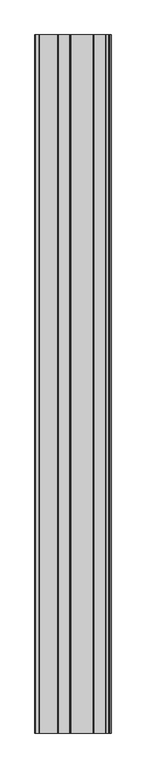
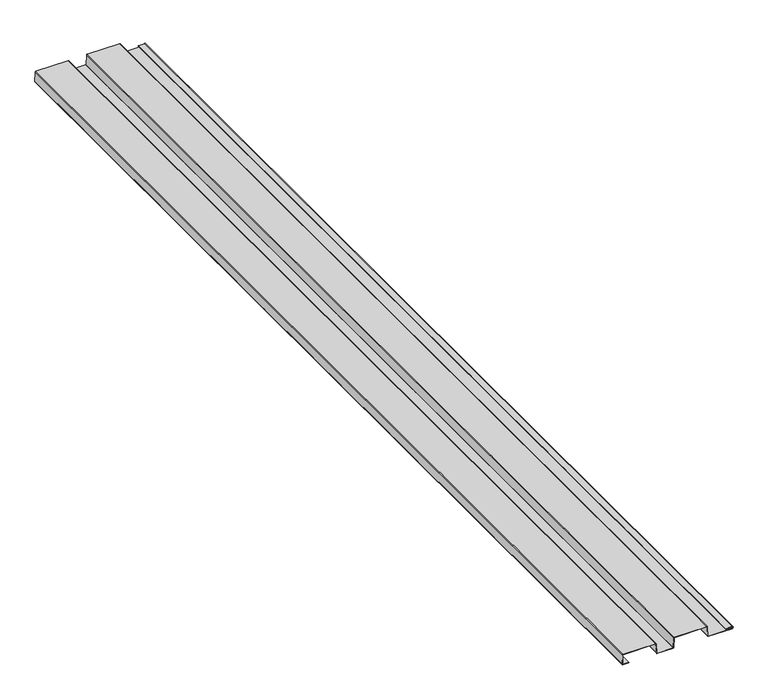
"""IFC4 building model written with IfcOpenShell, lengths in millimetres: proxy geometry."""

from ifc_helpers import new_model, si_unit, frame, origin, place, context, project, spatial, polyline, circle_curve, source, transform, mapped, element, save
from ifc_brep_helpers import plane_surface, cylinder_surface, revolved_surface, advanced_brep


def generic_models_5fbaab43(model_context):
    return source(origin(), model_context, "Body", "AdvancedBrep", [
        advanced_brep(
        [(-154.7994217, -3048.0, 0.0), (-137.2185623, -3048.0, 0.0), (-137.219925, -3048.0, 0.89916), (-154.7150336, -3048.0, 0.89916), (-155.3981608, -3048.0, 1.6278438), (-153.9343405, -3048.0, 30.3932642), (-153.2214581, -3048.0, 31.057519), (-55.671631, -3048.0, 31.2087565), (-55.0619464, -3048.0, 30.6320812), (-53.4613071, -3048.0, 0.8418387), (-51.8169753, -3048.0, -0.7142636), (-3.7616262, -3048.0, -0.6473022), (-2.122953, -3048.0, 0.9133337), (-0.6005606, -3048.0, 30.7143066), (0.0072412, -3048.0, 31.2931403), (97.6462597, -3048.0, 31.4411164), (98.2557964, -3048.0, 30.8644408), (99.8567079, -3048.0, 1.0691075), (101.5010813, -3048.0, -0.4877724), (172.7411692, -3048.0, -0.379805), (172.7313183, -3048.0, 6.1201021), (154.6020928, -3048.0, 6.0926264), (154.6059567, -3048.0, 3.5430763), (166.284772, -3048.0, 3.5607761), (166.2834093, -3048.0, 4.459935), (154.604594, -3048.0, 4.4422353), (154.6034555, -3048.0, 5.1934675), (172.732681, -3048.0, 5.2209431), (172.7398065, -3048.0, 0.5193539), (101.505598, -3048.0, 0.4113954), (100.7542866, -3048.0, 1.1227313), (99.1709167, -3048.0, 30.8949227), (97.644897, -3048.0, 32.3402754), (0.0, -3048.0, 32.1922904), (-1.4982865, -3048.0, 30.765413), (-3.0007467, -3048.0, 0.9383497), (-3.7634876, -3048.0, 0.2518557), (-51.8026131, -3048.0, 0.1524054), (-52.5634387, -3048.0, 0.8900163), (-54.1609685, -3048.0, 30.6625416), (-55.6732119, -3048.0, 32.1079152), (-153.0650247, -3048.0, 31.9366787), (-154.8306204, -3048.0, 30.4727252), (-156.297877, -3048.0, 1.6397779), (-154.7994217, 0.0, 0.0), (-156.297877, 0.0, 1.6397779), (-154.8306204, 0.0, 30.4727252), (-153.0650247, 0.0, 31.9366787), (-55.6732119, 0.0, 32.1079151), (-54.1702841, 0.0, 30.6863583), (-52.5634387, 0.0, 0.8900163), (-51.8121463, 0.0, 0.1790358), (-3.7634876, 0.0, 0.2518558), (-3.0147806, 0.0, 0.9649077), (-1.4982863, 0.0, 30.765413), (0.0, 0.0, 32.1922904), (97.644897, 0.0, 32.3402754), (99.1474602, 0.0, 30.9187179), (100.7542868, 0.0, 1.1227313), (101.505598, 0.0, 0.4113954), (172.7398065, 0.0, 0.5193539), (172.732681, 0.0, 5.2209431), (154.6034555, 0.0, 5.1934675), (154.604594, 0.0, 4.4422353), (166.2834093, 0.0, 4.459935), (166.284772, 0.0, 3.5607761), (154.6059567, 0.0, 3.5430763), (154.6020928, 0.0, 6.0926264), (172.7313183, 0.0, 6.1201021), (172.7411692, 0.0, -0.379805), (101.5010813, 0.0, -0.4877724), (99.8567079, 0.0, 1.0691075), (98.2730256, 0.0, 30.8471703), (97.6462597, 0.0, 31.4411164), (0.0072412, 0.0, 31.2931403), (-0.6005606, 0.0, 30.7143066), (-2.1027253, 0.0, 0.8931142), (-3.7616262, 0.0, -0.6473022), (-51.8007517, 0.0, -0.7467527), (-53.4613071, 0.0, 0.8418387), (-55.0588369, 0.0, 30.6143639), (-55.671631, 0.0, 31.2087565), (-153.0634438, 0.0, 31.0375201), (-153.9343405, 0.0, 30.3932642), (-155.3981608, 0.0, 1.6278438), (-154.7150336, 0.0, 0.89916), (-137.219925, 0.0, 0.89916), (-137.2185623, 0.0, 0.0)],
        [
            (0, 1),
            (1, 2),
            (2, 3),
            (3, 4, circle_curve(frame((-154.8016988, -3048.0, 1.5024644), z_axis=(0.0, 1.0, 0.0), x_axis=(1.0, 0.0, 0.0)), 0.6094973)),
            (4, 5),
            (5, 6, circle_curve(frame((-153.328232, -3048.0, 30.457447), z_axis=(0.0, 1.0, 0.0), x_axis=(1.0, 0.0, 0.0)), 0.6094973)),
            (6, 7),
            (7, 8, circle_curve(frame((-55.6705593, -3048.0, 30.5992601), z_axis=(0.0, 1.0, 0.0), x_axis=(1.0, 0.0, 0.0)), 0.6094973)),
            (8, 9),
            (9, 10, circle_curve(frame((-51.8194671, -3048.0, 0.9299363), z_axis=(0.0, -1.0, 0.0), x_axis=(1.0, 0.0, 0.0)), 1.6442018)),
            (10, 11),
            (11, 12, circle_curve(frame((-3.76503, -3048.0, 0.996896), z_axis=(0.0, -1.0, 0.0), x_axis=(1.0, 0.0, 0.0)), 1.6442018)),
            (12, 13),
            (13, 14, circle_curve(frame((0.0081649, -3048.0, 30.6836437), z_axis=(0.0, 1.0, 0.0), x_axis=(1.0, 0.0, 0.0)), 0.6094973)),
            (14, 15),
            (15, 16, circle_curve(frame((97.6471834, -3048.0, 30.8316198), z_axis=(0.0, 1.0, 0.0), x_axis=(1.0, 0.0, 0.0)), 0.6094973)),
            (16, 17),
            (17, 18, circle_curve(frame((101.4985894, -3048.0, 1.1564275), z_axis=(0.0, -1.0, 0.0), x_axis=(1.0, 0.0, 0.0)), 1.6442018)),
            (18, 19),
            (19, 20, circle_curve(frame((172.7362437, -3048.0, 2.8701485), z_axis=(0.0, -1.0, 0.0), x_axis=(1.0, 0.0, 0.0)), 3.2499573)),
            (20, 21),
            (21, 22, circle_curve(frame((154.6040247, -3048.0, 4.8178514), z_axis=(0.0, -1.0, 0.0), x_axis=(1.0, 0.0, 0.0)), 1.2747765)),
            (22, 23),
            (23, 24),
            (24, 25),
            (25, 26, circle_curve(frame((154.6040247, -3048.0, 4.8178514), z_axis=(0.0, 1.0, 0.0), x_axis=(1.0, 0.0, 0.0)), 0.3756165)),
            (26, 27),
            (27, 28, circle_curve(frame((172.7362437, -3048.0, 2.8701485), z_axis=(0.0, 1.0, 0.0), x_axis=(1.0, 0.0, 0.0)), 2.3507973)),
            (28, 29),
            (29, 30, circle_curve(frame((101.5044595, -3048.0, 1.1626276), z_axis=(0.0, 1.0, 0.0), x_axis=(1.0, 0.0, 0.0)), 0.751233)),
            (30, 31),
            (31, 32, circle_curve(frame((97.647174, -3048.0, 30.8378111), z_axis=(0.0, -1.0, 0.0), x_axis=(1.0, 0.0, 0.0)), 1.5024661)),
            (32, 33),
            (33, 34, circle_curve(frame((0.002277, -3048.0, 30.689826), z_axis=(0.0, -1.0, 0.0), x_axis=(1.0, 0.0, 0.0)), 1.5024661)),
            (34, 35),
            (35, 36, circle_curve(frame((-3.7650428, -3048.0, 1.0030872), z_axis=(0.0, 1.0, 0.0), x_axis=(1.0, 0.0, 0.0)), 0.751233)),
            (36, 37),
            (37, 38, circle_curve(frame((-51.8132848, -3048.0, 0.930268), z_axis=(0.0, 1.0, 0.0), x_axis=(1.0, 0.0, 0.0)), 0.751233)),
            (38, 39),
            (39, 40, circle_curve(frame((-55.6705702, -3048.0, 30.6054514), z_axis=(0.0, -1.0, 0.0), x_axis=(1.0, 0.0, 0.0)), 1.5024661)),
            (40, 41),
            (41, 42, circle_curve(frame((-153.328232, -3048.0, 30.457447), z_axis=(0.0, -1.0, 0.0), x_axis=(1.0, 0.0, 0.0)), 1.5024661)),
            (42, 43),
            (43, 0, circle_curve(frame((-154.8016988, -3048.0, 1.5024644), z_axis=(0.0, -1.0, 0.0), x_axis=(1.0, 0.0, 0.0)), 1.5024661)),
            (44, 45, circle_curve(frame((-154.8016988, 0.0, 1.5024644), z_axis=(0.0, 1.0, 0.0), x_axis=(1.0, 0.0, 0.0)), 1.5024661)),
            (45, 46),
            (46, 47, circle_curve(frame((-153.328232, 0.0, 30.457447), z_axis=(0.0, 1.0, 0.0), x_axis=(1.0, 0.0, 0.0)), 1.5024661)),
            (47, 48),
            (48, 49, circle_curve(frame((-55.6705702, 0.0, 30.6054514), z_axis=(0.0, 1.0, 0.0), x_axis=(1.0, 0.0, 0.0)), 1.5024661)),
            (49, 50),
            (50, 51, circle_curve(frame((-51.8132848, 0.0, 0.930268), z_axis=(0.0, -1.0, 0.0), x_axis=(1.0, 0.0, 0.0)), 0.751233)),
            (51, 52),
            (52, 53, circle_curve(frame((-3.7650428, 0.0, 1.0030872), z_axis=(0.0, -1.0, 0.0), x_axis=(1.0, 0.0, 0.0)), 0.751233)),
            (53, 54),
            (54, 55, circle_curve(frame((0.002277, 0.0, 30.689826), z_axis=(0.0, 1.0, 0.0), x_axis=(1.0, 0.0, 0.0)), 1.5024661)),
            (55, 56),
            (56, 57, circle_curve(frame((97.647174, 0.0, 30.8378111), z_axis=(0.0, 1.0, 0.0), x_axis=(1.0, 0.0, 0.0)), 1.5024661)),
            (57, 58),
            (58, 59, circle_curve(frame((101.5044595, 0.0, 1.1626276), z_axis=(0.0, -1.0, 0.0), x_axis=(1.0, 0.0, 0.0)), 0.751233)),
            (59, 60),
            (60, 61, circle_curve(frame((172.7362437, 0.0, 2.8701485), z_axis=(0.0, -1.0, 0.0), x_axis=(1.0, 0.0, 0.0)), 2.3507973)),
            (61, 62),
            (62, 63, circle_curve(frame((154.6040247, 0.0, 4.8178514), z_axis=(0.0, -1.0, 0.0), x_axis=(1.0, 0.0, 0.0)), 0.3756165)),
            (63, 64),
            (64, 65),
            (65, 66),
            (66, 67, circle_curve(frame((154.6040247, 0.0, 4.8178514), z_axis=(0.0, 1.0, 0.0), x_axis=(1.0, 0.0, 0.0)), 1.2747765)),
            (67, 68),
            (68, 69, circle_curve(frame((172.7362437, 0.0, 2.8701485), z_axis=(0.0, 1.0, 0.0), x_axis=(1.0, 0.0, 0.0)), 3.2499573)),
            (69, 70),
            (70, 71, circle_curve(frame((101.4985894, 0.0, 1.1564275), z_axis=(0.0, 1.0, 0.0), x_axis=(1.0, 0.0, 0.0)), 1.6442018)),
            (71, 72),
            (72, 73, circle_curve(frame((97.6471834, 0.0, 30.8316198), z_axis=(0.0, -1.0, 0.0), x_axis=(1.0, 0.0, 0.0)), 0.6094973)),
            (73, 74),
            (74, 75, circle_curve(frame((0.0081649, 0.0, 30.6836437), z_axis=(0.0, -1.0, 0.0), x_axis=(1.0, 0.0, 0.0)), 0.6094973)),
            (75, 76),
            (76, 77, circle_curve(frame((-3.76503, 0.0, 0.996896), z_axis=(0.0, 1.0, 0.0), x_axis=(1.0, 0.0, 0.0)), 1.6442018)),
            (77, 78),
            (78, 79, circle_curve(frame((-51.8194671, 0.0, 0.9299363), z_axis=(0.0, 1.0, 0.0), x_axis=(1.0, 0.0, 0.0)), 1.6442018)),
            (79, 80),
            (80, 81, circle_curve(frame((-55.6705593, 0.0, 30.5992601), z_axis=(0.0, -1.0, 0.0), x_axis=(1.0, 0.0, 0.0)), 0.6094973)),
            (81, 82),
            (82, 83, circle_curve(frame((-153.328232, 0.0, 30.457447), z_axis=(0.0, -1.0, 0.0), x_axis=(1.0, 0.0, 0.0)), 0.6094973)),
            (83, 84),
            (84, 85, circle_curve(frame((-154.8016988, 0.0, 1.5024644), z_axis=(0.0, -1.0, 0.0), x_axis=(1.0, 0.0, 0.0)), 0.6094973)),
            (85, 86),
            (86, 87),
            (87, 44),
            (0, 44),
            (87, 1),
            (86, 2),
            (85, 3),
            (84, 4),
            (83, 5),
            (82, 6),
            (81, 7),
            (80, 8),
            (79, 9),
            (78, 10),
            (77, 11),
            (76, 12),
            (75, 13),
            (74, 14),
            (73, 15),
            (72, 16),
            (71, 17),
            (70, 18),
            (69, 19),
            (68, 20),
            (67, 21),
            (66, 22),
            (65, 23),
            (64, 24),
            (63, 25),
            (62, 26),
            (61, 27),
            (60, 28),
            (59, 29),
            (58, 30),
            (57, 31),
            (56, 32),
            (55, 33),
            (54, 34),
            (53, 35),
            (52, 36),
            (51, 37),
            (50, 38),
            (49, 39),
            (48, 40),
            (47, 41),
            (46, 42),
            (45, 43),
        ],
        [
            plane_surface(frame((-137.2169468, -3048.0, 0.0), z_axis=(0.0, -1.0, 0.0), x_axis=(1.0, 0.0, 0.0))),
            plane_surface(frame((-137.2169468, 0.0, 0.0), z_axis=(0.0, 1.0, 0.0), x_axis=(-1.0, 0.0, 0.0))),
            plane_surface(frame((-154.7994217, -3048.0, 0.0), z_axis=(0.0, 0.0, -1.0), x_axis=(0.0, 1.0, 0.0))),
            plane_surface(frame((-137.2185623, -3048.0, 0.0), z_axis=(0.9999988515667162, 0.0, 0.001515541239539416), x_axis=(0.0, 1.0, 0.0))),
            plane_surface(frame((-137.219925, -3048.0, 0.89916), z_axis=(0.0, 0.0, 1.0), x_axis=(0.0, 1.0, 0.0))),
            revolved_surface(polyline([(-154.1922015, 0.0, 1.5024644), (-154.1922015, -3048.0, 1.5024644)]), (-154.8016988, 0.0, 1.5024644), (0.0, 1.0, 0.0)),
            plane_surface(frame((-155.3981608, -3048.0, 1.6278438), z_axis=(0.9987077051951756, 0.0, -0.050822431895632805), x_axis=(0.0, 1.0, 0.0))),
            revolved_surface(polyline([(-152.71873470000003, 0.0, 30.457447), (-152.71873470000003, -3048.0, 30.457447)]), (-153.328232, 0.0, 30.457447), (0.0, 1.0, 0.0)),
            plane_surface(frame((-153.0634438, -3048.0, 31.0375201), z_axis=(0.001758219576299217, 0.0, -0.9999984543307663), x_axis=(0.0, 1.0, 0.0))),
            revolved_surface(polyline([(-55.061062, 0.0, 30.5992601), (-55.061062, -3048.0, 30.5992601)]), (-55.6705593, 0.0, 30.5992601), (0.0, 1.0, 0.0)),
            plane_surface(frame((-55.0588369, -3048.0, 30.6143639), z_axis=(-0.998563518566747, 0.0, -0.05358077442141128), x_axis=(0.0, 1.0, 0.0))),
            cylinder_surface(frame((-51.8194671, 0.0, 0.9299363), z_axis=(0.0, -1.0, 0.0), x_axis=(1.0, 0.0, 0.0)), 1.6442018),
            plane_surface(frame((-51.8007517, -3048.0, -0.7467527), z_axis=(0.002070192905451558, 0.0, -0.9999978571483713), x_axis=(0.0, 1.0, 0.0))),
            cylinder_surface(frame((-3.76503, 0.0, 0.996896), z_axis=(0.0, -1.0, 0.0), x_axis=(1.0, 0.0, 0.0)), 1.6442018),
            plane_surface(frame((-2.1027253, -3048.0, 0.8931142), z_axis=(0.9987337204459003, 0.0, -0.05030860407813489), x_axis=(0.0, 1.0, 0.0))),
            revolved_surface(polyline([(0.6176622, 0.0, 30.6836437), (0.6176622, -3048.0, 30.6836437)]), (0.0081649, 0.0, 30.6836437), (0.0, 1.0, 0.0)),
            plane_surface(frame((0.0072412, -3048.0, 31.2931403), z_axis=(0.001515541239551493, 0.0, -0.9999988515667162), x_axis=(0.0, 1.0, 0.0))),
            revolved_surface(polyline([(98.2566807, 0.0, 30.8316198), (98.2566807, -3048.0, 30.8316198)]), (97.6471834, 0.0, 30.8316198), (0.0, 1.0, 0.0)),
            plane_surface(frame((98.2730256, -3048.0, 30.8471703), z_axis=(-0.9985887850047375, 0.0, -0.05310780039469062), x_axis=(0.0, 1.0, 0.0))),
            cylinder_surface(frame((101.4985894, 0.0, 1.1564275), z_axis=(0.0, -1.0, 0.0), x_axis=(1.0, 0.0, 0.0)), 1.6442018),
            plane_surface(frame((101.5010813, -3048.0, -0.4877724), z_axis=(0.0015155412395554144, 0.0, -0.9999988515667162), x_axis=(0.0, 1.0, 0.0))),
            cylinder_surface(frame((172.7362437, 0.0, 2.8701485), z_axis=(0.0, -1.0, 0.0), x_axis=(1.0, 0.0, 0.0)), 3.2499573),
            plane_surface(frame((172.7313183, -3048.0, 6.1201021), z_axis=(-0.0015155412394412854, 0.0, 0.9999988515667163), x_axis=(0.0, 1.0, 0.0))),
            cylinder_surface(frame((154.6040247, 0.0, 4.8178514), z_axis=(0.0, -1.0, 0.0), x_axis=(1.0, 0.0, 0.0)), 1.2747765),
            plane_surface(frame((154.6059567, -3048.0, 3.5430763), z_axis=(0.001515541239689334, 0.0, -0.999998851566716), x_axis=(0.0, 1.0, 0.0))),
            plane_surface(frame((166.284772, -3048.0, 3.5607761), z_axis=(0.9999988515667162, 0.0, 0.0015155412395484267), x_axis=(0.0, 1.0, 0.0))),
            plane_surface(frame((166.2834093, -3048.0, 4.459935), z_axis=(-0.0015155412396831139, 0.0, 0.999998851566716), x_axis=(0.0, 1.0, 0.0))),
            revolved_surface(polyline([(154.9796412, 0.0, 4.8178514), (154.9796412, -3048.0, 4.8178514)]), (154.6040247, 0.0, 4.8178514), (0.0, 1.0, 0.0)),
            plane_surface(frame((154.6034555, -3048.0, 5.1934675), z_axis=(0.0015155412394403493, 0.0, -0.9999988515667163), x_axis=(0.0, 1.0, 0.0))),
            revolved_surface(polyline([(175.087041, 0.0, 2.8701485), (175.087041, -3048.0, 2.8701485)]), (172.7362437, 0.0, 2.8701485), (0.0, 1.0, 0.0)),
            plane_surface(frame((172.7398065, -3048.0, 0.5193539), z_axis=(-0.0015155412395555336, 0.0, 0.9999988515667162), x_axis=(0.0, 1.0, 0.0))),
            revolved_surface(polyline([(102.2556925, 0.0, 1.1626276), (102.2556925, -3048.0, 1.1626276)]), (101.5044595, 0.0, 1.1626276), (0.0, 1.0, 0.0)),
            plane_surface(frame((100.7542868, -3048.0, 1.1227313), z_axis=(0.9985887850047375, 0.0, 0.05310780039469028), x_axis=(0.0, 1.0, 0.0))),
            cylinder_surface(frame((97.647174, 0.0, 30.8378111), z_axis=(0.0, -1.0, 0.0), x_axis=(1.0, 0.0, 0.0)), 1.5024661),
            plane_surface(frame((97.644897, -3048.0, 32.3402754), z_axis=(-0.0015155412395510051, 0.0, 0.9999988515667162), x_axis=(0.0, 1.0, 0.0))),
            cylinder_surface(frame((0.002277, 0.0, 30.689826), z_axis=(0.0, -1.0, 0.0), x_axis=(1.0, 0.0, 0.0)), 1.5024661),
            plane_surface(frame((-1.4982863, -3048.0, 30.765413), z_axis=(-0.9987337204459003, 0.0, 0.05030860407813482), x_axis=(0.0, 1.0, 0.0))),
            revolved_surface(polyline([(-3.0138097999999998, 0.0, 1.0030872), (-3.0138097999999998, -3048.0, 1.0030872)]), (-3.7650428, 0.0, 1.0030872), (0.0, 1.0, 0.0)),
            plane_surface(frame((-3.7634876, -3048.0, 0.2518558), z_axis=(-0.0020701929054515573, 0.0, 0.9999978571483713), x_axis=(0.0, 1.0, 0.0))),
            revolved_surface(polyline([(-51.0620518, 0.0, 0.930268), (-51.0620518, -3048.0, 0.930268)]), (-51.8132848, 0.0, 0.930268), (0.0, 1.0, 0.0)),
            plane_surface(frame((-52.5634387, -3048.0, 0.8900163), z_axis=(0.9985635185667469, 0.0, 0.053580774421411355), x_axis=(0.0, 1.0, 0.0))),
            cylinder_surface(frame((-55.6705702, 0.0, 30.6054514), z_axis=(0.0, -1.0, 0.0), x_axis=(1.0, 0.0, 0.0)), 1.5024661),
            plane_surface(frame((-55.6732119, -3048.0, 32.1079151), z_axis=(-0.0017582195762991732, 0.0, 0.9999984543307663), x_axis=(0.0, 1.0, 0.0))),
            cylinder_surface(frame((-153.328232, 0.0, 30.457447), z_axis=(0.0, -1.0, 0.0), x_axis=(1.0, 0.0, 0.0)), 1.5024661),
            plane_surface(frame((-154.8306204, -3048.0, 30.4727252), z_axis=(-0.9987077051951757, 0.0, 0.05082243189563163), x_axis=(0.0, 1.0, 0.0))),
            cylinder_surface(frame((-154.8016988, 0.0, 1.5024644), z_axis=(0.0, -1.0, 0.0), x_axis=(1.0, 0.0, 0.0)), 1.5024661),
        ],
        [
            (0, [[1, 2, 3, 4, 5, 6, 7, 8, 9, 10, 11, 12, 13, 14, 15, 16, 17, 18, 19, 20, 21, 22, 23, 24, 25, 26, 27, 28, 29, 30, 31, 32, 33, 34, 35, 36, 37, 38, 39, 40, 41, 42, 43, 44]]),
            (1, [[45, 46, 47, 48, 49, 50, 51, 52, 53, 54, 55, 56, 57, 58, 59, 60, 61, 62, 63, 64, 65, 66, 67, 68, 69, 70, 71, 72, 73, 74, 75, 76, 77, 78, 79, 80, 81, 82, 83, 84, 85, 86, 87, 88]]),
            (2, [[-1, 89, -88, 90]]),
            (3, [[-2, -90, -87, 91]]),
            (4, [[-3, -91, -86, 92]]),
            (5, [[-4, -92, -85, 93]]),
            (6, [[-5, -93, -84, 94]]),
            (7, [[-6, -94, -83, 95]]),
            (8, [[-7, -95, -82, 96]]),
            (9, [[-8, -96, -81, 97]]),
            (10, [[-9, -97, -80, 98]]),
            (11, [[-10, -98, -79, 99]]),
            (12, [[-11, -99, -78, 100]]),
            (13, [[-12, -100, -77, 101]]),
            (14, [[-13, -101, -76, 102]]),
            (15, [[-14, -102, -75, 103]]),
            (16, [[-15, -103, -74, 104]]),
            (17, [[-16, -104, -73, 105]]),
            (18, [[-17, -105, -72, 106]]),
            (19, [[-18, -106, -71, 107]]),
            (20, [[-19, -107, -70, 108]]),
            (21, [[-20, -108, -69, 109]]),
            (22, [[-21, -109, -68, 110]]),
            (23, [[-22, -110, -67, 111]]),
            (24, [[-23, -111, -66, 112]]),
            (25, [[-24, -112, -65, 113]]),
            (26, [[-25, -113, -64, 114]]),
            (27, [[-26, -114, -63, 115]]),
            (28, [[-27, -115, -62, 116]]),
            (29, [[-28, -116, -61, 117]]),
            (30, [[-29, -117, -60, 118]]),
            (31, [[-30, -118, -59, 119]]),
            (32, [[-31, -119, -58, 120]]),
            (33, [[-32, -120, -57, 121]]),
            (34, [[-33, -121, -56, 122]]),
            (35, [[-34, -122, -55, 123]]),
            (36, [[-35, -123, -54, 124]]),
            (37, [[-36, -124, -53, 125]]),
            (38, [[-37, -125, -52, 126]]),
            (39, [[-38, -126, -51, 127]]),
            (40, [[-39, -127, -50, 128]]),
            (41, [[-40, -128, -49, 129]]),
            (42, [[-41, -129, -48, 130]]),
            (43, [[-42, -130, -47, 131]]),
            (44, [[-43, -131, -46, 132]]),
            (45, [[-44, -132, -45, -89]]),
        ],
    ),
    ])


if __name__ == "__main__":
    model = new_model("IFC4")
    model_context = context("Model", 3, world=origin())
    ifc_project = project(units=[si_unit("LENGTHUNIT", "METRE", prefix="MILLI")], contexts=[model_context])
    site = spatial("IfcSite", under=ifc_project)
    building = spatial("IfcBuilding", under=site)
    placement = place(None, origin())
    generic_models_shape = generic_models_5fbaab43(model_context)
    element("IfcBuildingElementProxy", 1, Name="Flex-Series_1.2FX40-12c_Panel_AEP_Span : 12\" Flex Series 1.2FX40-12c - 20GA", ObjectType="Flex-Series_1.2FX40-12c_Panel_AEP_Span : 12\" Flex Series 1.2FX40-12c - 20GA", at=placement, inside=building, context=model_context, shape_type="MappedRepresentation", body=[
        mapped(generic_models_shape, transform((0.0, 0.0, 0.0), x_axis=(1.0, 0.0, 0.0), y_axis=(0.0, 1.0, 0.0), z_axis=(0.0, 0.0, 1.0))),
    ])
    save(model, "model.ifc")
